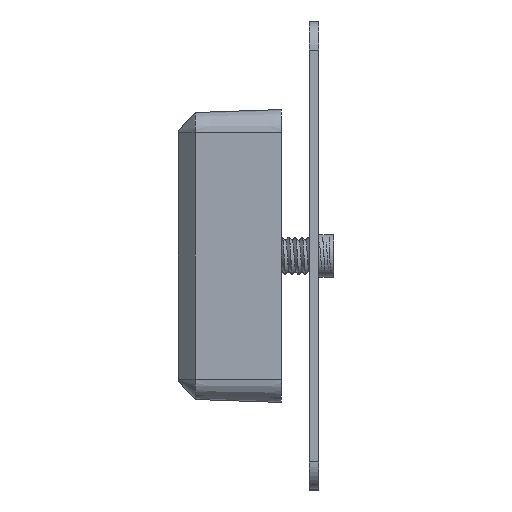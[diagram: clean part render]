
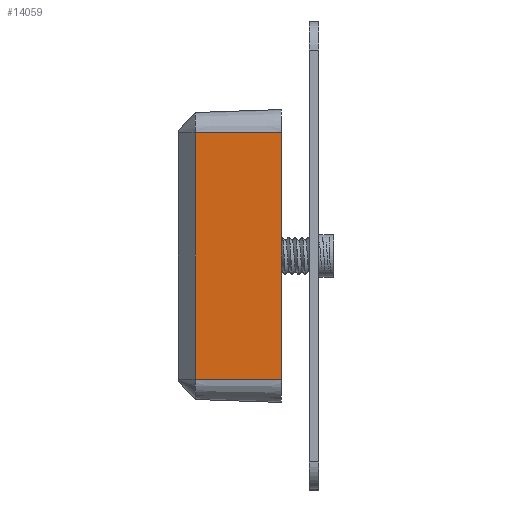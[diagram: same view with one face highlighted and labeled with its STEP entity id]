
A CAD part, left-side view. The second image highlights one B-rep face of the part: STEP entity #14059.
In plain terms, the highlighted planar face has unit normal (-0.999, 0.035, 0).
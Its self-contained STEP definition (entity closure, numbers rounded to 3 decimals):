
#1136 = ORIENTED_EDGE ( 'NONE', *, *, #12084, .T. ) ;
#1303 = CARTESIAN_POINT ( 'NONE',  ( -23.3, 0., 13.15 ) ) ;
#1592 = ORIENTED_EDGE ( 'NONE', *, *, #15868, .T. ) ;
#1629 = DIRECTION ( 'NONE',  ( -0.035, -0.999, 0. ) ) ;
#1844 = VERTEX_POINT ( 'NONE', #6341 ) ;
#2247 = VECTOR ( 'NONE', #1629, 1000. ) ;
#3374 = PLANE ( 'NONE',  #14990 ) ;
#4233 = ORIENTED_EDGE ( 'NONE', *, *, #14734, .F. ) ;
#4365 = DIRECTION ( 'NONE',  ( -0.035, -0.999, 0. ) ) ;
#5114 = VERTEX_POINT ( 'NONE', #9216 ) ;
#5201 = FACE_OUTER_BOUND ( 'NONE', #13279, .T. ) ;
#5731 = CARTESIAN_POINT ( 'NONE',  ( -23.3, 0., -13.15 ) ) ;
#6341 = CARTESIAN_POINT ( 'NONE',  ( -23.3, 0., 13.15 ) ) ;
#6866 = DIRECTION ( 'NONE',  ( 0., 0., 1. ) ) ;
#7399 = VERTEX_POINT ( 'NONE', #8614 ) ;
#7753 = CARTESIAN_POINT ( 'NONE',  ( -23.3, 0., -13.15 ) ) ;
#8614 = CARTESIAN_POINT ( 'NONE',  ( -22.979, 9.201, -13.15 ) ) ;
#9023 = CARTESIAN_POINT ( 'NONE',  ( -22.979, 9.201, -13.15 ) ) ;
#9216 = CARTESIAN_POINT ( 'NONE',  ( -22.979, 9.201, 13.15 ) ) ;
#9782 = ORIENTED_EDGE ( 'NONE', *, *, #17180, .T. ) ;
#10606 = LINE ( 'NONE', #9023, #19315 ) ;
#11913 = DIRECTION ( 'NONE',  ( -0.999, 0.035, 0. ) ) ;
#12084 = EDGE_CURVE ( 'NONE', #5114, #7399, #10606, .T. ) ;
#12455 = VECTOR ( 'NONE', #4365, 1000. ) ;
#13279 = EDGE_LOOP ( 'NONE', ( #4233, #1136, #1592, #9782 ) ) ;
#13808 = LINE ( 'NONE', #17241, #22350 ) ;
#14059 = ADVANCED_FACE ( 'NONE', ( #5201 ), #3374, .T. ) ;
#14734 = EDGE_CURVE ( 'NONE', #5114, #1844, #17236, .T. ) ;
#14934 = VERTEX_POINT ( 'NONE', #7753 ) ;
#14990 = AXIS2_PLACEMENT_3D ( 'NONE', #15254, #11913, #17068 ) ;
#15254 = CARTESIAN_POINT ( 'NONE',  ( -23.3, 0., -13.15 ) ) ;
#15868 = EDGE_CURVE ( 'NONE', #7399, #14934, #20015, .T. ) ;
#17068 = DIRECTION ( 'NONE',  ( -0.035, -0.999, 0. ) ) ;
#17180 = EDGE_CURVE ( 'NONE', #14934, #1844, #13808, .T. ) ;
#17236 = LINE ( 'NONE', #1303, #2247 ) ;
#17241 = CARTESIAN_POINT ( 'NONE',  ( -23.3, 0., -13.15 ) ) ;
#17376 = DIRECTION ( 'NONE',  ( 0., 0., -1. ) ) ;
#19315 = VECTOR ( 'NONE', #17376, 1000. ) ;
#20015 = LINE ( 'NONE', #5731, #12455 ) ;
#22350 = VECTOR ( 'NONE', #6866, 1000. ) ;
